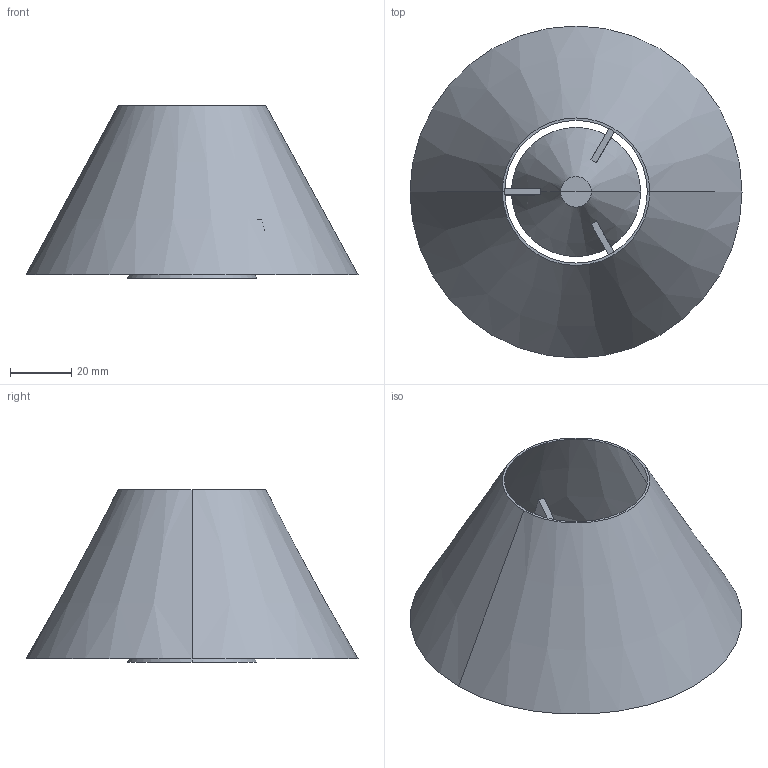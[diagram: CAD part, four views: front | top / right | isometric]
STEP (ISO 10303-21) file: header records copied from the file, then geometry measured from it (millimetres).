
FILE_DESCRIPTION(('BendCAD AP242 PMI export'),'2;1');
FILE_NAME('bendcad.step','',('BendCAD'),('BendCAD'),'BendCAD','BendCAD','');
FILE_SCHEMA(('AP242_MANAGED_MODEL_BASED_3D_ENGINEERING_MIM_LF'));
Length unit declared in the file: millimetre
Products named in the file (1): BENDCAD
Bounding box: 108 x 108 x 56 mm (x, y, z)
Volume: 29563.9 mm3; surface area: 37376 mm2
Topology: 1 solids, 1 shells, 30 faces, 220 edges, 190 vertices
Faces by surface type: plane 22, cone 6, cylinder 2
Entity records: 2332 total; most frequent: CARTESIAN_POINT 909, ORIENTED_EDGE 440, EDGE_CURVE 220, VERTEX_POINT 190, B_SPLINE_CURVE_WITH_KNOTS 156, DIRECTION 126, AXIS2_PLACEMENT_3D 47, EDGE_LOOP 34
